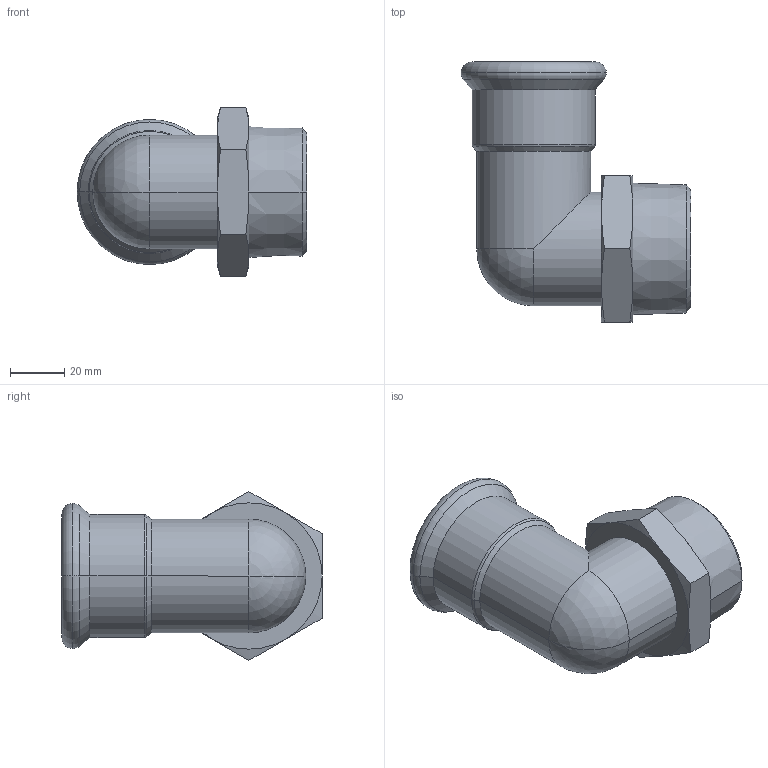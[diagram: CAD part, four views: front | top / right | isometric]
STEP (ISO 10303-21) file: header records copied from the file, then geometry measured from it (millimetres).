
FILE_DESCRIPTION(('OneSpaceDesigner STEP Export'),'2;1');
FILE_NAME('R2728 42xR1-1-2.stp','2010-06-10T13:23:36',(''),(''),'OneSpace Designer STEP processor for AP214 (Solid Model)','OneSpace Modeling 15.00A 14-Mar-2007 (C) CoCreate Software GmbH','');
FILE_SCHEMA(('AUTOMOTIVE_DESIGN { 1 0 10303 214 1 1 1 1 }'));
Length unit declared in the file: millimetre
Products named in the file (2): R2728_42xR1-1-2
Assembly tree (1 placements, depth 2):
  R2728_42xR1-1-2
    R2728_42xR1-1-2
Bounding box: 84.78 x 96 x 62.35 mm (x, y, z)
Volume: 51862.5 mm3; surface area: 39265.5 mm2
Topology: 1 solids, 1 shells, 128 faces, 321 edges, 201 vertices
Faces by surface type: plane 66, cylinder 32, cone 20, torus 6, sphere 4
Entity records: 4216 total; most frequent: CARTESIAN_POINT 1415, ORIENTED_EDGE 634, DIRECTION 474, EDGE_CURVE 317, VERTEX_POINT 201, VECTOR 178, LINE 178, EDGE_LOOP 152
